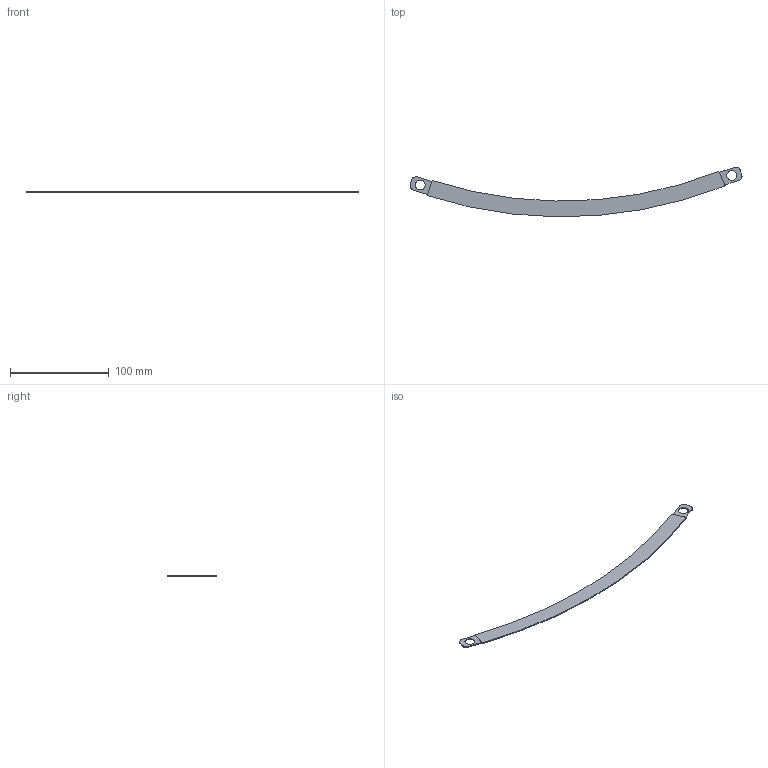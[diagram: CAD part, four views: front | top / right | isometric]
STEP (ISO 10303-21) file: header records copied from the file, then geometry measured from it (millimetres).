
FILE_DESCRIPTION(/* description */ (''),/* implementation_level */ '2;1');
FILE_NAME(/* name */ 'GE-BFEC-cu-L500.step',/* time_stamp */ '2025-12-16T16:23:52+03:00',/* author */ (''),/* organization */ (''),/* preprocessor_version */ 'ST-DEVELOPER v20.1',/* originating_system */ 'Autodesk Translation Framework v14.21.0.0',/* authorisation */ '');
FILE_SCHEMA (('AUTOMOTIVE_DESIGN { 1 0 10303 214 3 1 1 }'));
Length unit declared in the file: millimetre
Products named in the file (1): GE-BFEC-cu-L500
Bounding box: 336.95 x 50.35 x 1 mm (x, y, z)
Volume: 5233.1 mm3; surface area: 11295.2 mm2
Topology: 3 solids, 3 shells, 24 faces, 54 edges, 36 vertices
Faces by surface type: plane 16, cylinder 8
Full cylindrical faces by diameter (mm): 10 x2
Entity records: 720 total; most frequent: DIRECTION 120, CARTESIAN_POINT 115, ORIENTED_EDGE 108, EDGE_CURVE 54, AXIS2_PLACEMENT_3D 41, LINE 38, VECTOR 38, VERTEX_POINT 36
